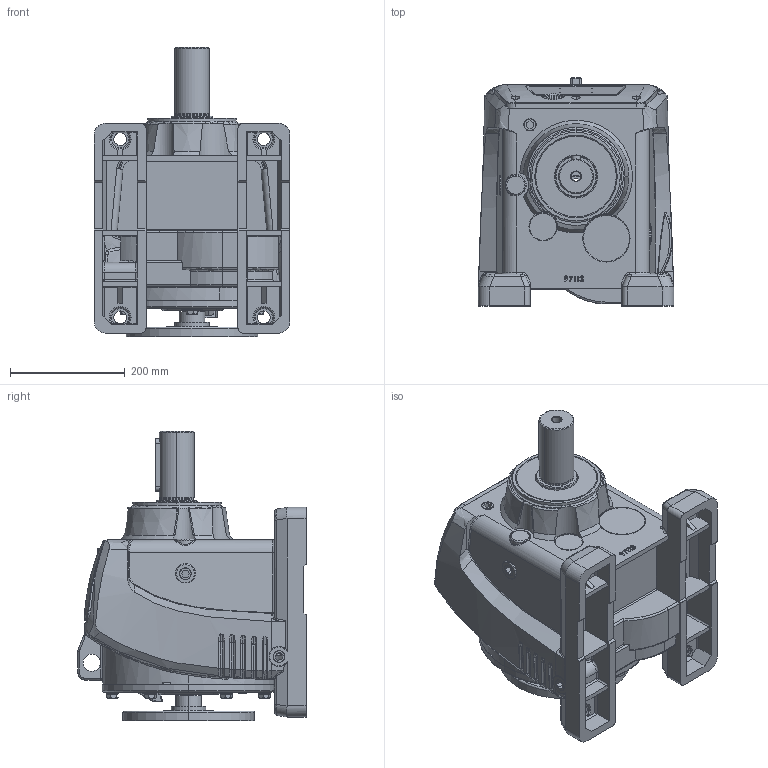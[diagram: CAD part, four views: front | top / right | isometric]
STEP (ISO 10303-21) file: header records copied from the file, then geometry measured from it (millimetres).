
FILE_DESCRIPTION (( 'STEP AP203' ), '1' );
FILE_NAME ('WINL97-182-4TC.STEP', '2013-09-26T10:05:40', ( 'User' ), ( 'Chenta' ), 'SwSTEP 2.0', 'SolidWorks 2011', '' );
FILE_SCHEMA (( 'CONFIG_CONTROL_DESIGN' ));
Products named in the file (1): WINL97-182-4TC
Bounding box: 340 x 397 x 504 mm (x, y, z)
Surface area: 1073645 mm2 (no closed solid volume)
Topology: 0 solids, 46 shells, 1165 faces, 3509 edges, 2346 vertices
Faces by surface type: plane 380, bspline 310, cylinder 281, cone 92, torus 86, sphere 16
Entity records: 65090 total; most frequent: CARTESIAN_POINT 36557, ORIENTED_EDGE 6208, DIRECTION 5039, EDGE_CURVE 3501, VERTEX_POINT 2346, AXIS2_PLACEMENT_3D 1844, LINE 1351, VECTOR 1351
